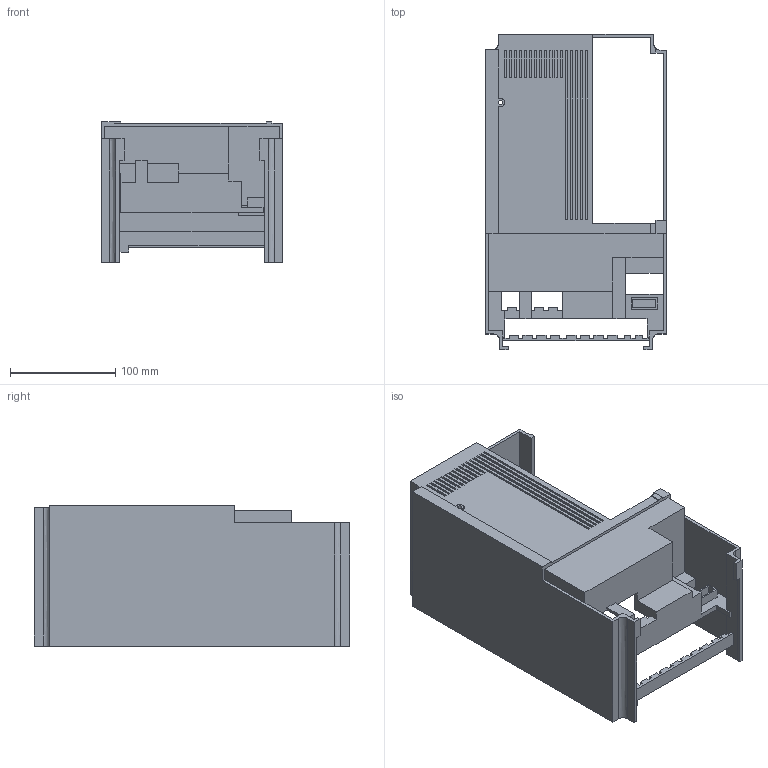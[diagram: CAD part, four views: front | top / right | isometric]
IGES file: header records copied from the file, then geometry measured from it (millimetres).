
Start section:  PTC IGES file: j4-700-case.igs
Global section: file name: j4-700-case.igs; native system: Pro/ENGINEER by Parametric Technology Corporation; preprocessor: 2010160; author: CV86875; organization: Unknown; date: 20121031.194042; units: millimetre
Bounding box: 172 x 300 x 133.2 mm (x, y, z)
Volume: 397124.7 mm3; surface area: 274750 mm2
Topology: 1 solids, 1 shells, 275 faces, 782 edges, 520 vertices
Faces by surface type: bspline 275
